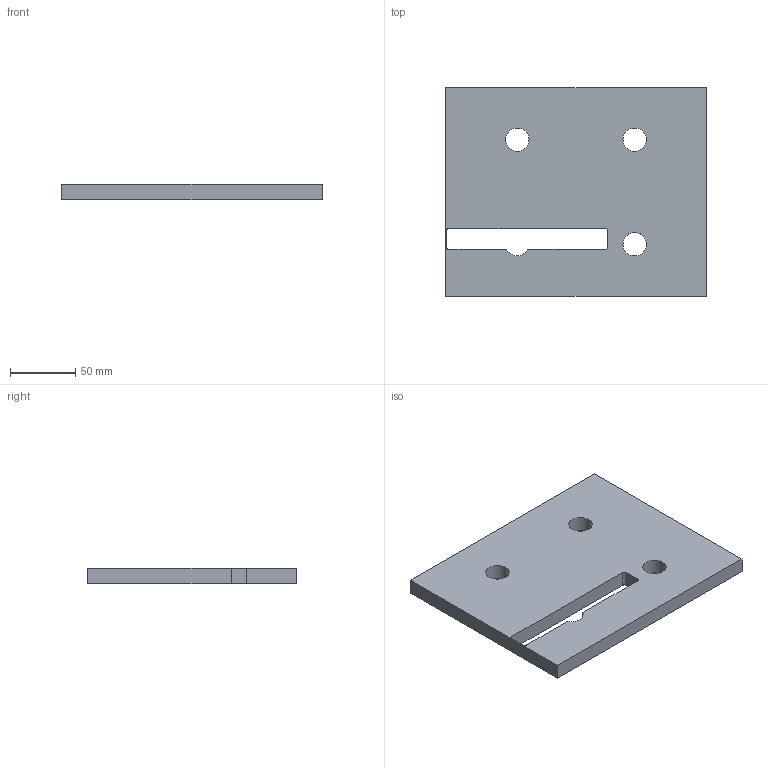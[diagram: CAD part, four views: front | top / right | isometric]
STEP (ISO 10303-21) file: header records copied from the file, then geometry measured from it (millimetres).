
FILE_DESCRIPTION(('Open CASCADE Model'),'2;1');
FILE_NAME('Open CASCADE Shape Model','2026-10-15T15:10:09',('Author'),( 'Open CASCADE'),'Open CASCADE STEP processor 8.0','Open CASCADE 8.0' ,'Unknown');
FILE_SCHEMA(('AUTOMOTIVE_DESIGN { 1 0 10303 214 1 1 1 1 }'));
Length unit declared in the file: millimetre
Products named in the file (1): J01_SOPORTE_200x160x12_P05_JUNTA_34 215
Bounding box: 200 x 160 x 12 mm (x, y, z)
Volume: 350380.2 mm3; surface area: 72437.6 mm2
Topology: 1 solids, 1 shells, 19 faces, 51 edges, 34 vertices
Faces by surface type: plane 11, cylinder 8
Full cylindrical faces by diameter (mm): 18 x3
Entity records: 1278 total; most frequent: CARTESIAN_POINT 255, DIRECTION 181, ORIENTED_EDGE 102, PCURVE 102, DEFINITIONAL_REPRESENTATION 102, LINE 97, VECTOR 97, EDGE_CURVE 51
